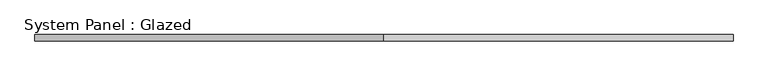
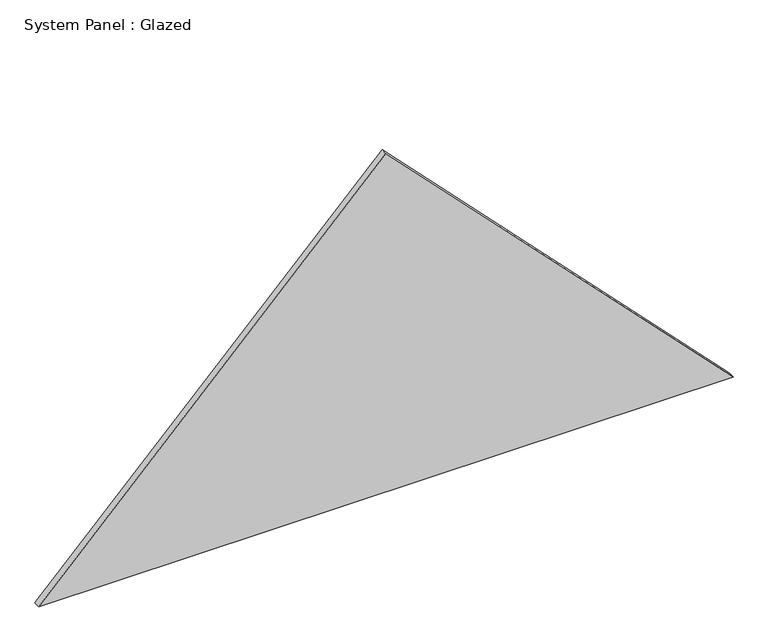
"""IFC4 building model written with IfcOpenShell, lengths in millimetres: plate geometry, System Panel : Glazed."""

from ifc_helpers import new_model, si_unit, frame, origin, place, context, project, spatial, polyline, outline, extrude, source, transform, mapped, element, save


def system_panel_glazed_1440a41f(model_context):
    return source(origin(), model_context, "Body", "SweptSolid", [
        extrude(outline(polyline([(0.0, -1371.923872), (0.0, 1371.923872), (1414.1467586, 0.0), (0.0, -1371.923872)])), frame((0.0, 19.05, 0.0), z_axis=(0.0, 1.0, 0.0), x_axis=(0.0, 0.0, 1.0)), (0.0, 0.0, 1.0), 25.4),
    ])


if __name__ == "__main__":
    model = new_model("IFC4")
    model_context = context("Model", 3, world=origin())
    ifc_project = project(units=[si_unit("LENGTHUNIT", "METRE", prefix="MILLI")], contexts=[model_context])
    site = spatial("IfcSite", under=ifc_project)
    building = spatial("IfcBuilding", under=site)
    placement = place(None, origin())
    system_panel_glazed_shape = system_panel_glazed_1440a41f(model_context)
    element("IfcPlate", 1, ObjectType="System Panel : Glazed", at=placement, inside=building, context=model_context, shape_type="MappedRepresentation", body=[
        mapped(system_panel_glazed_shape, transform((0.0, 0.0, 0.0), x_axis=(1.0, 0.0, 0.0), y_axis=(0.0, 1.0, 0.0), z_axis=(0.0, 0.0, 1.0))),
    ])
    save(model, "model.ifc")
